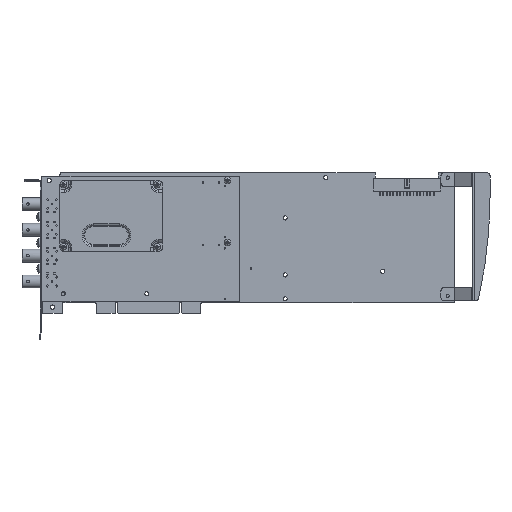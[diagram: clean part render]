
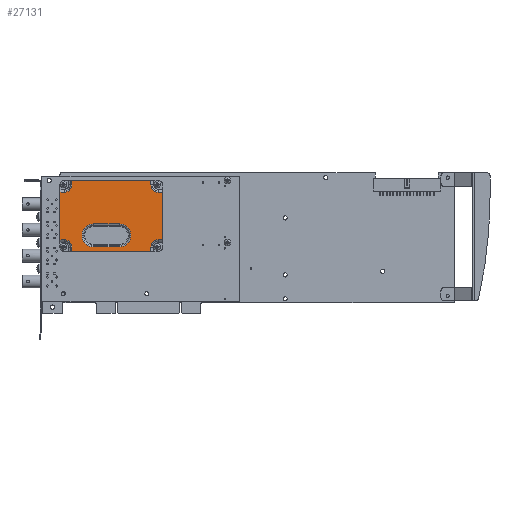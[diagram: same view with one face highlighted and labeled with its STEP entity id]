
A CAD part, top view. The second image highlights one B-rep face of the part: STEP entity #27131.
In plain terms, the highlighted planar face has unit normal (0, 0, 1).
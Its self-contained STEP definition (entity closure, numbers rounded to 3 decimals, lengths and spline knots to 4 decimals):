
#8065=DIRECTION('',(0.,1.,0.));
#8066=VECTOR('',#8065,0.13);
#8067=CARTESIAN_POINT('',(0.9137,1.557,0.771));
#8068=LINE('',#8067,#8066);
#8069=CARTESIAN_POINT('',(0.6953,1.687,0.771));
#8070=DIRECTION('',(0.,0.,1.));
#8071=DIRECTION('',(1.,0.,0.));
#8072=AXIS2_PLACEMENT_3D('',#8069,#8070,#8071);
#8074=DIRECTION('',(-1.,0.,0.));
#8075=VECTOR('',#8074,0.13);
#8076=CARTESIAN_POINT('',(0.6953,1.9054,0.771));
#8077=LINE('',#8076,#8075);
#8078=DIRECTION('',(0.,-1.,0.));
#8079=VECTOR('',#8078,1.4232);
#8080=CARTESIAN_POINT('',(0.5653,3.3286,0.771));
#8081=LINE('',#8080,#8079);
#8082=DIRECTION('',(1.,0.,0.));
#8083=VECTOR('',#8082,0.13);
#8084=CARTESIAN_POINT('',(0.5653,3.3286,0.771));
#8085=LINE('',#8084,#8083);
#8086=CARTESIAN_POINT('',(0.6953,3.547,0.771));
#8087=DIRECTION('',(0.,0.,1.));
#8088=DIRECTION('',(0.,-1.,0.));
#8089=AXIS2_PLACEMENT_3D('',#8086,#8087,#8088);
#8091=DIRECTION('',(0.,1.,0.));
#8092=VECTOR('',#8091,0.13);
#8093=CARTESIAN_POINT('',(0.9137,3.547,0.771));
#8094=LINE('',#8093,#8092);
#8095=DIRECTION('',(-1.,0.,0.));
#8096=VECTOR('',#8095,2.3632);
#8097=CARTESIAN_POINT('',(3.2769,3.677,0.771));
#8098=LINE('',#8097,#8096);
#8099=DIRECTION('',(0.,-1.,0.));
#8100=VECTOR('',#8099,0.13);
#8101=CARTESIAN_POINT('',(3.2769,3.677,0.771));
#8102=LINE('',#8101,#8100);
#8103=CARTESIAN_POINT('',(3.4953,3.547,0.771));
#8104=DIRECTION('',(0.,0.,1.));
#8105=DIRECTION('',(-1.,0.,0.));
#8106=AXIS2_PLACEMENT_3D('',#8103,#8104,#8105);
#8108=DIRECTION('',(1.,0.,0.));
#8109=VECTOR('',#8108,0.13);
#8110=CARTESIAN_POINT('',(3.4953,3.3286,0.771));
#8111=LINE('',#8110,#8109);
#8112=DIRECTION('',(0.,1.,0.));
#8113=VECTOR('',#8112,1.4232);
#8114=CARTESIAN_POINT('',(3.6253,1.9054,0.771));
#8115=LINE('',#8114,#8113);
#8116=DIRECTION('',(-1.,0.,0.));
#8117=VECTOR('',#8116,0.13);
#8118=CARTESIAN_POINT('',(3.6253,1.9054,0.771));
#8119=LINE('',#8118,#8117);
#8120=CARTESIAN_POINT('',(3.4953,1.687,0.771));
#8121=DIRECTION('',(0.,0.,1.));
#8122=DIRECTION('',(0.,1.,0.));
#8123=AXIS2_PLACEMENT_3D('',#8120,#8121,#8122);
#8125=DIRECTION('',(0.,-1.,0.));
#8126=VECTOR('',#8125,0.13);
#8127=CARTESIAN_POINT('',(3.2769,1.687,0.771));
#8128=LINE('',#8127,#8126);
#8129=DIRECTION('',(1.,0.,0.));
#8130=VECTOR('',#8129,2.3632);
#8131=CARTESIAN_POINT('',(0.9137,1.557,0.771));
#8132=LINE('',#8131,#8130);
#9980=CARTESIAN_POINT('',(1.5653,2.037,0.771));
#9981=DIRECTION('',(0.,0.,-1.));
#9982=DIRECTION('',(0.,-1.,0.));
#9983=AXIS2_PLACEMENT_3D('',#9980,#9981,#9982);
#9995=DIRECTION('',(1.,0.,0.));
#9996=VECTOR('',#9995,0.77);
#9997=CARTESIAN_POINT('',(1.5653,2.3801,0.771));
#9998=LINE('',#9997,#9996);
#10008=CARTESIAN_POINT('',(2.3353,2.037,0.771));
#10009=DIRECTION('',(0.,0.,-1.));
#10010=DIRECTION('',(0.,1.,0.));
#10011=AXIS2_PLACEMENT_3D('',#10008,#10009,#10010);
#10023=DIRECTION('',(-1.,0.,0.));
#10024=VECTOR('',#10023,0.77);
#10025=CARTESIAN_POINT('',(2.3353,1.6939,0.771));
#10026=LINE('',#10025,#10024);
#14779=CARTESIAN_POINT('',(3.6253,1.9054,0.771));
#14780=CARTESIAN_POINT('',(3.4953,1.9054,0.771));
#14781=VERTEX_POINT('',#14779);
#14782=VERTEX_POINT('',#14780);
#14783=CARTESIAN_POINT('',(3.2769,1.687,0.771));
#14784=VERTEX_POINT('',#14783);
#14785=CARTESIAN_POINT('',(3.2769,1.557,0.771));
#14786=VERTEX_POINT('',#14785);
#14801=CARTESIAN_POINT('',(3.2769,3.677,0.771));
#14802=CARTESIAN_POINT('',(3.2769,3.547,0.771));
#14803=VERTEX_POINT('',#14801);
#14804=VERTEX_POINT('',#14802);
#14805=CARTESIAN_POINT('',(3.4953,3.3286,0.771));
#14806=VERTEX_POINT('',#14805);
#14807=CARTESIAN_POINT('',(3.6253,3.3286,0.771));
#14808=VERTEX_POINT('',#14807);
#14823=CARTESIAN_POINT('',(0.5653,3.3286,0.771));
#14824=CARTESIAN_POINT('',(0.6953,3.3286,0.771));
#14825=VERTEX_POINT('',#14823);
#14826=VERTEX_POINT('',#14824);
#14827=CARTESIAN_POINT('',(0.9137,3.547,0.771));
#14828=VERTEX_POINT('',#14827);
#14829=CARTESIAN_POINT('',(0.9137,3.677,0.771));
#14830=VERTEX_POINT('',#14829);
#14849=CARTESIAN_POINT('',(0.9137,1.557,0.771));
#14850=CARTESIAN_POINT('',(0.9137,1.687,0.771));
#14851=VERTEX_POINT('',#14849);
#14852=VERTEX_POINT('',#14850);
#14853=CARTESIAN_POINT('',(0.6953,1.9054,0.771));
#14854=VERTEX_POINT('',#14853);
#14855=CARTESIAN_POINT('',(0.5653,1.9054,0.771));
#14856=VERTEX_POINT('',#14855);
#14967=CARTESIAN_POINT('',(1.5653,1.6939,0.771));
#14968=CARTESIAN_POINT('',(1.5653,2.3801,0.771));
#14969=VERTEX_POINT('',#14967);
#14970=VERTEX_POINT('',#14968);
#14975=CARTESIAN_POINT('',(2.3353,2.3801,0.771));
#14976=VERTEX_POINT('',#14975);
#14979=CARTESIAN_POINT('',(2.3353,1.6939,0.771));
#14980=VERTEX_POINT('',#14979);
#27087=CARTESIAN_POINT('',(2.0953,2.617,0.771));
#27088=DIRECTION('',(0.,0.,1.));
#27089=DIRECTION('',(1.,0.,0.));
#27090=AXIS2_PLACEMENT_3D('',#27087,#27088,#27089);
#27091=PLANE('',#27090);
#27093=ORIENTED_EDGE('',*,*,#27092,.T.);
#27095=ORIENTED_EDGE('',*,*,#27094,.T.);
#27096=ORIENTED_EDGE('',*,*,#27078,.T.);
#27097=ORIENTED_EDGE('',*,*,#26772,.F.);
#27099=ORIENTED_EDGE('',*,*,#27098,.T.);
#27101=ORIENTED_EDGE('',*,*,#27100,.T.);
#27103=ORIENTED_EDGE('',*,*,#27102,.T.);
#27104=ORIENTED_EDGE('',*,*,#26828,.F.);
#27106=ORIENTED_EDGE('',*,*,#27105,.T.);
#27108=ORIENTED_EDGE('',*,*,#27107,.T.);
#27110=ORIENTED_EDGE('',*,*,#27109,.T.);
#27111=ORIENTED_EDGE('',*,*,#26879,.F.);
#27113=ORIENTED_EDGE('',*,*,#27112,.T.);
#27115=ORIENTED_EDGE('',*,*,#27114,.T.);
#27117=ORIENTED_EDGE('',*,*,#27116,.T.);
#27118=ORIENTED_EDGE('',*,*,#26930,.F.);
#27119=EDGE_LOOP('',(#27093,#27095,#27096,#27097,#27099,#27101,#27103,#27104,
#27106,#27108,#27110,#27111,#27113,#27115,#27117,#27118));
#27120=FACE_OUTER_BOUND('',#27119,.F.);
#27122=ORIENTED_EDGE('',*,*,#27121,.F.);
#27124=ORIENTED_EDGE('',*,*,#27123,.F.);
#27126=ORIENTED_EDGE('',*,*,#27125,.F.);
#27128=ORIENTED_EDGE('',*,*,#27127,.F.);
#27129=EDGE_LOOP('',(#27122,#27124,#27126,#27128));
#27130=FACE_BOUND('',#27129,.F.);
#27131=ADVANCED_FACE('',(#27120,#27130),#27091,.T.);
#8073=CIRCLE('',#8072,0.2184);
#8090=CIRCLE('',#8089,0.2184);
#8107=CIRCLE('',#8106,0.2184);
#8124=CIRCLE('',#8123,0.2184);
#9984=CIRCLE('',#9983,0.3431);
#10012=CIRCLE('',#10011,0.3431);
#26772=EDGE_CURVE('',#14825,#14856,#8081,.T.);
#26828=EDGE_CURVE('',#14803,#14830,#8098,.T.);
#26879=EDGE_CURVE('',#14781,#14808,#8115,.T.);
#26930=EDGE_CURVE('',#14851,#14786,#8132,.T.);
#27078=EDGE_CURVE('',#14854,#14856,#8077,.T.);
#27092=EDGE_CURVE('',#14851,#14852,#8068,.T.);
#27094=EDGE_CURVE('',#14852,#14854,#8073,.T.);
#27098=EDGE_CURVE('',#14825,#14826,#8085,.T.);
#27100=EDGE_CURVE('',#14826,#14828,#8090,.T.);
#27102=EDGE_CURVE('',#14828,#14830,#8094,.T.);
#27105=EDGE_CURVE('',#14803,#14804,#8102,.T.);
#27107=EDGE_CURVE('',#14804,#14806,#8107,.T.);
#27109=EDGE_CURVE('',#14806,#14808,#8111,.T.);
#27112=EDGE_CURVE('',#14781,#14782,#8119,.T.);
#27114=EDGE_CURVE('',#14782,#14784,#8124,.T.);
#27116=EDGE_CURVE('',#14784,#14786,#8128,.T.);
#27121=EDGE_CURVE('',#14969,#14970,#9984,.T.);
#27123=EDGE_CURVE('',#14980,#14969,#10026,.T.);
#27125=EDGE_CURVE('',#14976,#14980,#10012,.T.);
#27127=EDGE_CURVE('',#14970,#14976,#9998,.T.);
